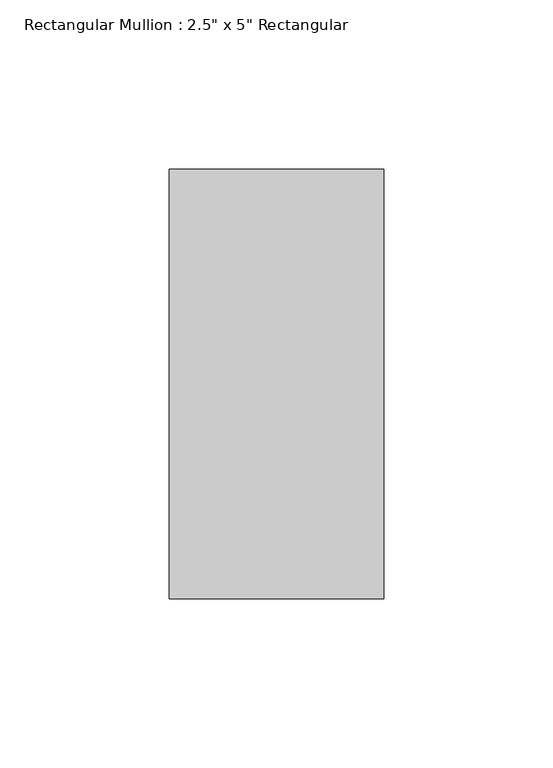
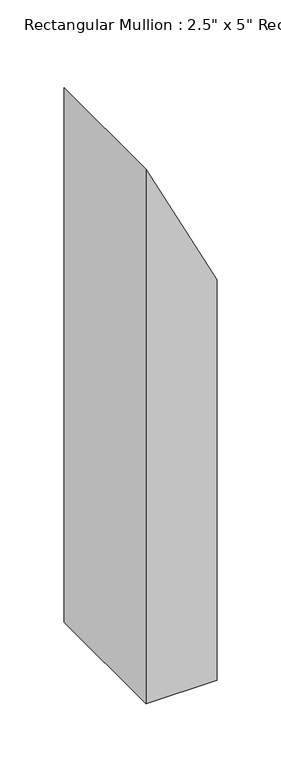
"""IFC4 building model written with IfcOpenShell, lengths in millimetres: member geometry."""

from ifc_helpers import new_model, si_unit, frame, origin, place, context, project, spatial, polyline, outline, extrude, source, transform, mapped, element, save


def member_8bab0767(model_context):
    return source(origin(), model_context, "Body", "SweptSolid", [
        extrude(outline(polyline([(-205.4903166, 31.75), (-78.4903166, -31.75), (-584.9824023, -31.75), (-584.9824023, 31.75), (-205.4903166, 31.75)])), frame((0.0, -63.5, 0.0), z_axis=(0.0, 1.0, 0.0), x_axis=(0.0, 0.0, 1.0)), (0.0, 0.0, 1.0), 127.0),
    ])


if __name__ == "__main__":
    model = new_model("IFC4")
    model_context = context("Model", 3, world=origin())
    ifc_project = project(units=[si_unit("LENGTHUNIT", "METRE", prefix="MILLI")], contexts=[model_context])
    site = spatial("IfcSite", under=ifc_project)
    building = spatial("IfcBuilding", under=site)
    placement = place(None, origin())
    member_shape = member_8bab0767(model_context)
    element("IfcMember", 1, ObjectType="Rectangular Mullion : 2.5\" x 5\" Rectangular", at=placement, inside=building, context=model_context, shape_type="MappedRepresentation", body=[
        mapped(member_shape, transform((0.0, 0.0, 0.0), x_axis=(1.0, 0.0, 0.0), y_axis=(0.0, 1.0, 0.0), z_axis=(0.0, 0.0, 1.0))),
    ])
    save(model, "model.ifc")
